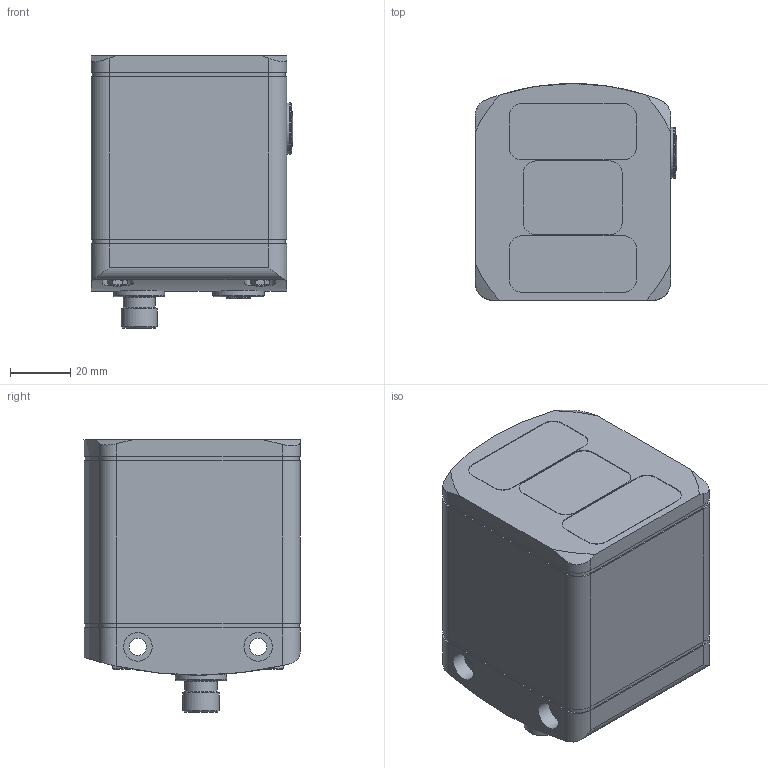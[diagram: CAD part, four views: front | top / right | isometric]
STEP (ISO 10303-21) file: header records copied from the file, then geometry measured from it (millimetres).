
FILE_DESCRIPTION( ( 'STEP AP203' ), '1' );
FILE_NAME( 'p:/temp/worker_14/temp/exporttempdir_1100_601_PNFBa/format_1/O3D310.stp', '2021-05-17T07:18:44', ( 'License CC BY-ND 4.0' ), ( 'CADENAS' ), ' ', 'PARTsolutions', ' ' );
FILE_SCHEMA( ( 'CONFIG_CONTROL_DESIGN' ) );
Length unit declared in the file: millimetre
Products named in the file (1): _O3D310
Bounding box: 67.1 x 72 x 90.42 mm (x, y, z)
Volume: 341161.9 mm3; surface area: 32897.9 mm2
Topology: 1 solids, 1 shells, 208 faces, 499 edges, 324 vertices
Faces by surface type: plane 109, cylinder 67, torus 14, cone 13, bspline 4, sphere 1
Full cylindrical faces by diameter (mm): 5 x1, 5.7 x2, 8 x1, 8.3 x1, 9.5 x4, 9.7 x1, 10 x1, 10.7 x1, 10.8 x1, 10.92 x1, 12 x1, 12.1 x1, 17 x3, 17.1 x1
Entity records: 6829 total; most frequent: CARTESIAN_POINT 2161, DIRECTION 935, ORIENTED_EDGE 900, EDGE_CURVE 450, AXIS2_PLACEMENT_3D 361, VERTEX_POINT 321, EDGE_LOOP 288, FACE_OUTER_BOUND 240
